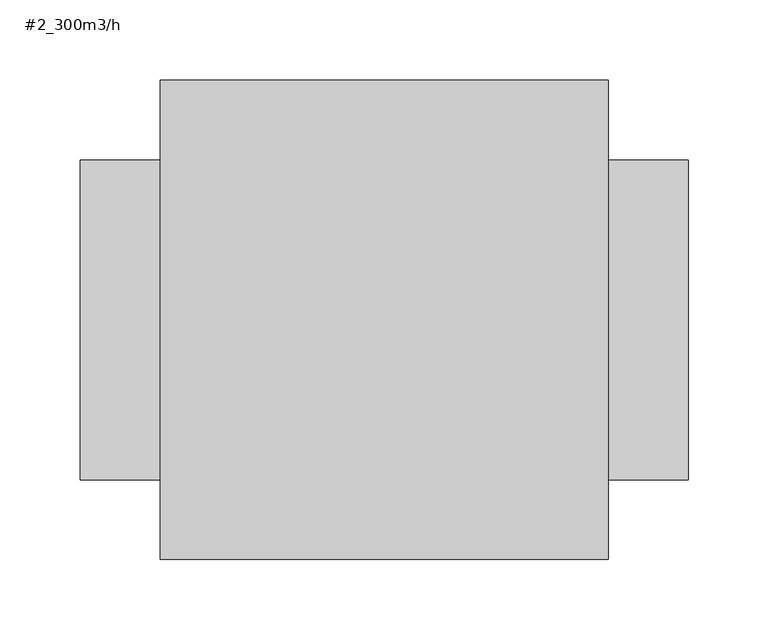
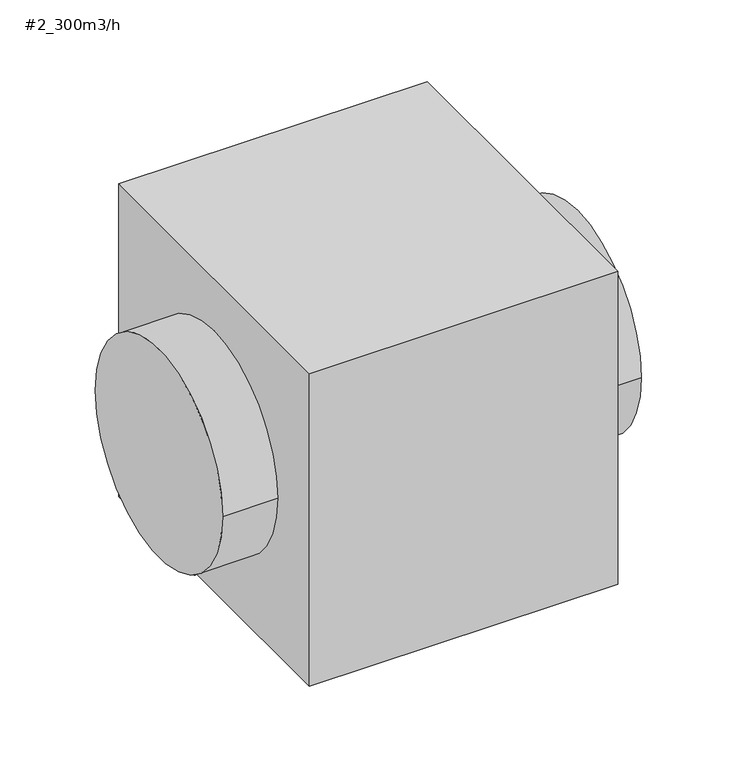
"""IFC4 building model written with IfcOpenShell, lengths in millimetres: unitary equipment geometry, 11021_FAN_斜流送風機 : #2_300m3/h."""

from ifc_helpers import new_model, si_unit, point, frame, origin, origin_2d, place, context, project, spatial, polyline, circle_curve, trimmed, segment, composite_curve, outline, extrude, source, transform, mapped, element, save


def unitary_equipment_2_300m3_h_3dfff21d(model_context):
    return source(origin(), model_context, "Body", "SweptSolid", [
        extrude(outline(composite_curve([segment(trimmed(circle_curve(origin_2d(), 100.0), [point((-100.0, 0.0))], [point((100.0, 0.0))], False, "CARTESIAN"), True, "CONTINUOUS"), segment(trimmed(circle_curve(origin_2d(), 100.0), [point((100.0, 0.0))], [point((-100.0, 0.0))], False, "CARTESIAN"), True, "CONTINUOUS")], self_intersect=False)), frame((140.0, 0.0, 0.0), z_axis=(1.0, 0.0, 0.0), x_axis=(0.0, 1.0, 0.0)), (0.0, 0.0, 1.0), 50.0),
        extrude(outline(composite_curve([segment(trimmed(circle_curve(origin_2d(), 100.0), [point((-100.0, 0.0))], [point((100.0, 0.0))], False, "CARTESIAN"), True, "CONTINUOUS"), segment(trimmed(circle_curve(origin_2d(), 100.0), [point((100.0, 0.0))], [point((-100.0, 0.0))], False, "CARTESIAN"), True, "CONTINUOUS")], self_intersect=False)), frame((-190.0, 0.0, 0.0), z_axis=(1.0, 0.0, 0.0), x_axis=(0.0, 1.0, 0.0)), (0.0, 0.0, 1.0), 50.0),
        extrude(outline(polyline([(140.0, -150.0), (-140.0, -150.0), (-140.0, 150.0), (140.0, 150.0), (140.0, -150.0)])), frame((0.0, 0.0, -150.0), z_axis=(0.0, 0.0, 1.0), x_axis=(1.0, 0.0, 0.0)), (0.0, 0.0, 1.0), 300.0),
    ])


if __name__ == "__main__":
    model = new_model("IFC4")
    model_context = context("Model", 3, world=origin())
    ifc_project = project(units=[si_unit("LENGTHUNIT", "METRE", prefix="MILLI")], contexts=[model_context])
    site = spatial("IfcSite", under=ifc_project)
    building = spatial("IfcBuilding", under=site)
    placement = place(None, origin())
    unitary_equipment_2_300m3_h_shape = unitary_equipment_2_300m3_h_3dfff21d(model_context)
    element("IfcUnitaryEquipment", 1, ObjectType="11021_FAN_斜流送風機 : #2_300m3/h", at=placement, inside=building, context=model_context, shape_type="MappedRepresentation", body=[
        mapped(unitary_equipment_2_300m3_h_shape, transform((0.0, 0.0, 0.0), x_axis=(1.0, 0.0, 0.0), y_axis=(0.0, 1.0, 0.0), z_axis=(0.0, 0.0, 1.0))),
    ])
    save(model, "model.ifc")
